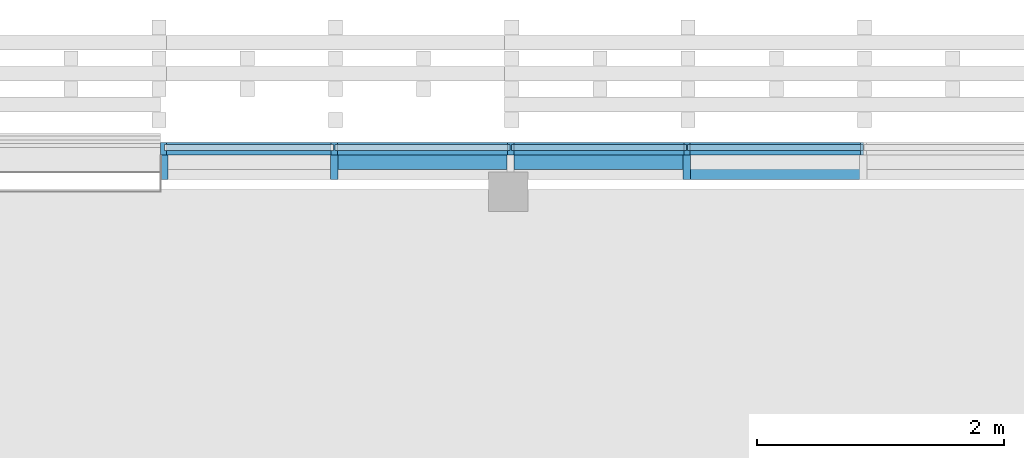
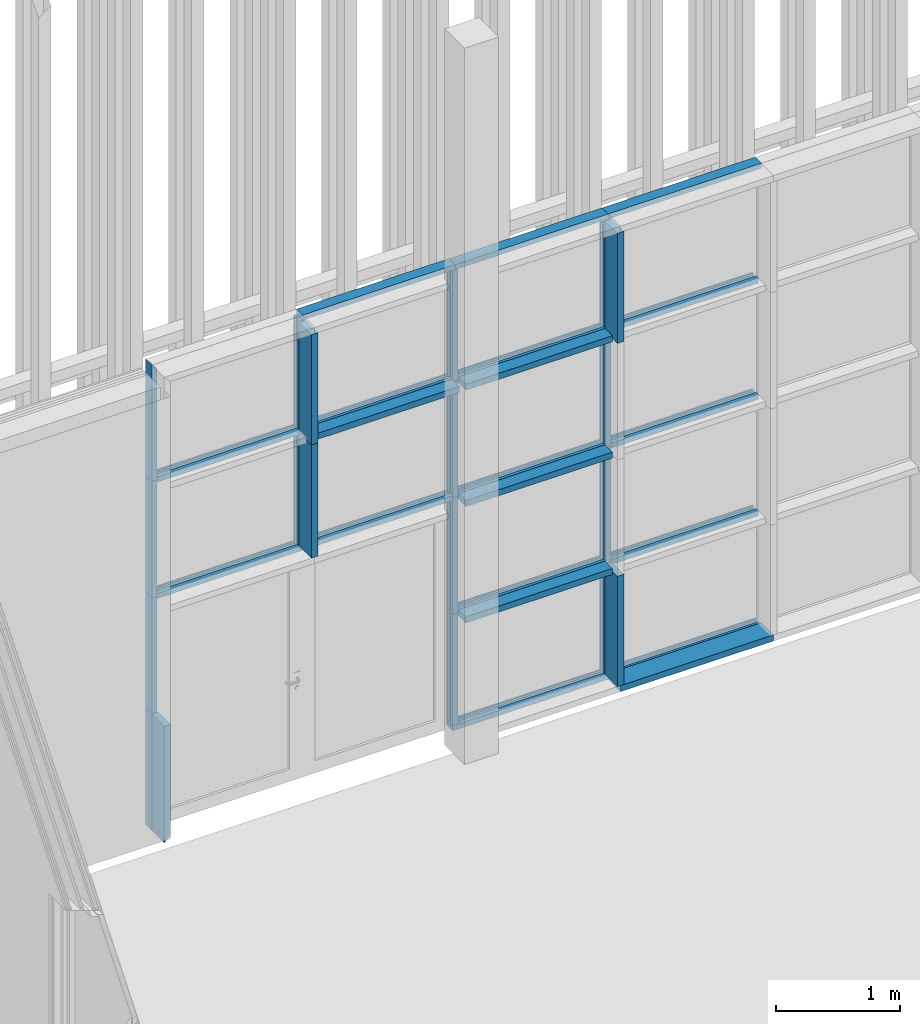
# One storey, part 31 of 260: 39 members, 2 elements without a shape of their own.
"""IFC2X3 building model written with IfcOpenShell, lengths in millimetres."""

import ifcopenshell
import ifcopenshell.guid

model = None  # the IFC model being written
_history = None  # IfcOwnerHistory: only IFC2X3 demands one
_inside = {}  # id of a spatial element -> (the spatial element, [elements in it])
_under = {}  # id of a project, library or spatial element -> (it, [spatial elements below it])
_declared = {}  # id of a project -> (the project, [libraries it declares])
_typed = {}  # id of a type object -> (the type object, [elements of that type])
_made_of = {}  # id of a material, layer set ... -> (it, [elements and type objects made of it])


def new_model(schema):
    """Start an empty IFC model of exactly this schema.

    Asked for "IFC4X3", IfcOpenShell would pick the latest addendum, in which some entities
    have other attributes; the version numbers below select the first issue.
    IFC2X3 requires an IfcOwnerHistory on every rooted entity: one is made here for all.
    """
    global model, _history
    if schema == "IFC4X3":
        model = ifcopenshell.file(schema_version=(4, 3, 0, 0))
    else:
        model = ifcopenshell.file(schema=schema)
    _inside.clear()
    _under.clear()
    _declared.clear()
    _typed.clear()
    _made_of.clear()
    _history = None
    if model.schema == "IFC2X3":
        org = make("IfcOrganization", Name="unknown")
        user = make(
            "IfcPersonAndOrganization",
            ThePerson=make("IfcPerson", FamilyName="unknown"),
            TheOrganization=org,
        )
        app = make(
            "IfcApplication",
            ApplicationDeveloper=org,
            Version="unknown",
            ApplicationFullName="unknown",
            ApplicationIdentifier="unknown",
        )
        _history = make(
            "IfcOwnerHistory",
            OwningUser=user,
            OwningApplication=app,
            ChangeAction="ADDED",
            CreationDate=0,
        )
    return model


def make(cls, **values):
    """One entity of the class cls with the attributes given. An attribute that is None is left unset."""
    return model.create_entity(
        cls, **{name: value for name, value in values.items() if value is not None}
    )


def entity(cls, *values):
    """Any entity or typed value of the class cls, its attributes in the order of the schema. None: left unset."""
    e = model.create_entity(cls)
    for i, value in enumerate(values):
        if value is not None:
            e[i] = value
    return e


def rooted(cls, **values):
    """An entity with a GlobalId (a new one), such as an element, a storey or a relation."""
    return make(cls, GlobalId=ifcopenshell.guid.new(), OwnerHistory=_history, **values)


def si_unit(unit_type, name, prefix=None):
    """IfcSIUnit, for example si_unit("LENGTHUNIT", "METRE", prefix="MILLI")."""
    return make("IfcSIUnit", UnitType=unit_type, Prefix=prefix, Name=name)


def converted_unit(unit_type, name, factor, base, dimensions=None, offset=None):
    """IfcConversionBasedUnit, such as the inch: factor (a typed value) times the base unit."""
    return make(
        "IfcConversionBasedUnit"
        if offset is None
        else "IfcConversionBasedUnitWithOffset",
        ConversionOffset=offset,
        Dimensions=None
        if dimensions is None
        else entity("IfcDimensionalExponents", *dimensions),
        UnitType=unit_type,
        Name=name,
        ConversionFactor=make(
            "IfcMeasureWithUnit", ValueComponent=factor, UnitComponent=base
        ),
    )


def derived_unit(unit_type, elements):
    """IfcDerivedUnit: a product of units, each with its exponent."""
    return make(
        "IfcDerivedUnit",
        Elements=[
            make("IfcDerivedUnitElement", Unit=unit, Exponent=power)
            for unit, power in elements
        ],
        UnitType=unit_type,
    )


def money_unit(currency):
    """IfcMonetaryUnit."""
    return make("IfcMonetaryUnit", Currency=currency)


def assignment(units):
    """IfcUnitAssignment: the units of a project."""
    return None if units is None else make("IfcUnitAssignment", Units=units)


def point(xyz):
    """IfcCartesianPoint."""
    return None if xyz is None else make("IfcCartesianPoint", Coordinates=xyz)


def direction(xyz):
    """IfcDirection."""
    return None if xyz is None else make("IfcDirection", DirectionRatios=xyz)


def frame(location, z_axis=None, x_axis=None):
    """IfcAxis2Placement3D, a coordinate frame: its origin and axes. An axis left out is left unset."""
    return make(
        "IfcAxis2Placement3D",
        Location=point(location),
        Axis=direction(z_axis),
        RefDirection=direction(x_axis),
    )


def origin_with_axes():
    """The frame at (0, 0, 0) with the z axis (0, 0, 1) and the x axis (1, 0, 0) written out."""
    return frame((0.0, 0.0, 0.0), z_axis=(0.0, 0.0, 1.0), x_axis=(1.0, 0.0, 0.0))


def place(relative_to, where):
    """IfcLocalPlacement: puts the frame where relative to a parent placement (None: the world)."""
    return make(
        "IfcLocalPlacement", PlacementRelTo=relative_to, RelativePlacement=where
    )


def context(
    kind, dimensions, precision=None, world=None, true_north=None, identifier=None
):
    """IfcGeometricRepresentationContext, for example the 3D "Model" context."""
    return make(
        "IfcGeometricRepresentationContext",
        ContextIdentifier=identifier,
        ContextType=kind,
        CoordinateSpaceDimension=dimensions,
        Precision=precision,
        WorldCoordinateSystem=world,
        TrueNorth=true_north,
    )


def subcontext(parent, identifier, kind, view, scale=None):
    """IfcGeometricRepresentationSubContext, for example "Body" below "Model"."""
    return make(
        "IfcGeometricRepresentationSubContext",
        ContextIdentifier=identifier,
        ContextType=kind,
        ParentContext=parent,
        TargetScale=scale,
        TargetView=view,
    )


def project(units=None, contexts=None):
    """IfcProject with its units and contexts."""
    return rooted(
        "IfcProject",
        Name="project",
        RepresentationContexts=contexts,
        UnitsInContext=assignment(units),
    )


def spatial(cls, under=None, at=None, **own):
    """A site, building, storey or space (cls), placed at a placement, below another one or the project."""
    s = rooted(cls, ObjectPlacement=at, **own)
    if under is not None:
        _under.setdefault(under.id(), (under, []))[1].append(s)
    return s


def faces_of(points, faces, orient=None, outer=None):
    """IfcFace entities. A face is a list of loops; a loop is a list of indices into points, from 0.

    orient and outer hold one flag for each loop. By default every Orientation is true, the
    first loop of a face is its IfcFaceOuterBound and the others are IfcFaceBound.
    """
    made = []
    for i, loops in enumerate(faces):
        bounds = []
        for j, loop in enumerate(loops):
            is_outer = j == 0 if outer is None else outer[i][j]
            bounds.append(
                make(
                    "IfcFaceOuterBound" if is_outer else "IfcFaceBound",
                    Bound=make("IfcPolyLoop", Polygon=[points[k] for k in loop]),
                    Orientation=True if orient is None else orient[i][j],
                )
            )
        made.append(make("IfcFace", Bounds=bounds))
    return made


def faceted_brep(points, faces, orient=None, outer=None, voids=None):
    """IfcFacetedBrep: a solid bounded by flat faces; with voids (closed shells), ...WithVoids."""
    shared = [point(p) for p in points]
    hull = make("IfcClosedShell", CfsFaces=faces_of(shared, faces, orient, outer))
    if voids is None:
        return make("IfcFacetedBrep", Outer=hull)
    return make(
        "IfcFacetedBrepWithVoids",
        Outer=hull,
        Voids=[
            make(cls, CfsFaces=faces_of(shared, fs, o, b)) for cls, fs, o, b in voids
        ],
    )


def shape(context_of_items, identifier, shape_type, items):
    """IfcShapeRepresentation: the items that make up one representation, for example the "Body"."""
    return make(
        "IfcShapeRepresentation",
        ContextOfItems=context_of_items,
        RepresentationIdentifier=identifier,
        RepresentationType=shape_type,
        Items=items,
    )


def source(mapping_origin, context_of_items, identifier, shape_type, items):
    """IfcRepresentationMap: a shape defined once, which mapped items show again and again."""
    return make(
        "IfcRepresentationMap",
        MappingOrigin=mapping_origin,
        MappedRepresentation=shape(context_of_items, identifier, shape_type, items),
    )


def transform(
    local_origin,
    x_axis=None,
    y_axis=None,
    z_axis=None,
    scale=None,
    scale2=None,
    scale3=None,
    uniform=True,
):
    """IfcCartesianTransformationOperator3D, or its non-uniform kind. x_axis, y_axis, z_axis: its Axis1, 2, 3."""
    if uniform:
        return make(
            "IfcCartesianTransformationOperator3D",
            Axis1=direction(x_axis),
            Axis2=direction(y_axis),
            LocalOrigin=point(local_origin),
            Scale=scale,
            Axis3=direction(z_axis),
        )
    return make(
        "IfcCartesianTransformationOperator3DnonUniform",
        Axis1=direction(x_axis),
        Axis2=direction(y_axis),
        LocalOrigin=point(local_origin),
        Scale=scale,
        Axis3=direction(z_axis),
        Scale2=scale2,
        Scale3=scale3,
    )


def mapped(mapping_source, mapping_target):
    """IfcMappedItem: shows the shape of a source again, moved by a transform."""
    return make(
        "IfcMappedItem", MappingSource=mapping_source, MappingTarget=mapping_target
    )


def material(Name=None, Category=None):
    """IfcMaterial."""
    return make("IfcMaterial", Name=Name, Category=Category)


def made_of(thing, what):
    """Note that an element or type object is made of a material, layer set ...; save() writes the relation."""
    if what is not None:
        _made_of.setdefault(what.id(), (what, []))[1].append(thing)
    return thing


def type_object(cls, material=None, **own):
    """A type object (cls), such as IfcWallType, which elements share."""
    return made_of(rooted(cls, **own), material)


def element(
    cls,
    number,
    at=None,
    inside=None,
    cuts=None,
    type_object=None,
    material=None,
    context=None,
    identifier="Body",
    shape_type=None,
    held_by="IfcProductDefinitionShape",
    body=None,
    shapes=None,
    **own,
):
    """One element of the class cls, such as IfcWall. Its Tag is "e" and its number.

    at: its placement. inside: the storey or other place that contains it. cuts: it is an
    opening in that element (IfcRelVoidsElement). A single representation is given by context,
    identifier, shape_type and body (its items); several are given by shapes. held_by: the class
    of the entity that holds the representations. save() writes the other relations.
    """
    e = rooted(cls, Tag="e%d" % number, ObjectPlacement=at, **own)
    if body is not None:
        shapes = [shape(context, identifier, shape_type, body)]
    if shapes is not None:
        e.Representation = make(held_by, Representations=shapes)
    if inside is not None:
        _inside.setdefault(inside.id(), (inside, []))[1].append(e)
    if cuts is not None:
        rooted(
            "IfcRelVoidsElement", RelatingBuildingElement=cuts, RelatedOpeningElement=e
        )
    if type_object is not None:
        _typed.setdefault(type_object.id(), (type_object, []))[1].append(e)
    return made_of(e, material)


def aggregate(whole, parts):
    """IfcRelAggregates: a whole, such as a stair, and the parts it consists of."""
    return rooted("IfcRelAggregates", RelatingObject=whole, RelatedObjects=parts)


def save(model, path):
    """Write the relations noted so far, then the file.

    IfcRelAggregates (storeys below a building ...), IfcRelContainedInSpatialStructure (elements
    in a storey), IfcRelDefinesByType, IfcRelAssociatesMaterial and IfcRelDeclares: one each for
    every whole, place, type object, material and project.
    """
    for whole, parts in _under.values():
        aggregate(whole, parts)
    for where, things in _inside.values():
        rooted(
            "IfcRelContainedInSpatialStructure",
            RelatedElements=things,
            RelatingStructure=where,
        )
    for kind, things in _typed.values():
        rooted("IfcRelDefinesByType", RelatedObjects=things, RelatingType=kind)
    for what, things in _made_of.values():
        rooted("IfcRelAssociatesMaterial", RelatedObjects=things, RelatingMaterial=what)
    for by, libraries in _declared.values():
        rooted("IfcRelDeclares", RelatingContext=by, RelatedDefinitions=libraries)
    model.write(path)


model = new_model("IFC2X3")

# Units and contexts
model_context = context("Model", 3, precision=0.01, world=origin_with_axes(), true_north=direction((0.0, 1.0)))
body_context = subcontext(model_context, "Body", "Model", "MODEL_VIEW")
ifc_project = project(units=[si_unit("LENGTHUNIT", "METRE", prefix="MILLI"), si_unit("AREAUNIT", "SQUARE_METRE"), si_unit("VOLUMEUNIT", "CUBIC_METRE"), converted_unit("PLANEANGLEUNIT", "DEGREE", entity("IfcPlaneAngleMeasure", 0.0174532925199), si_unit("PLANEANGLEUNIT", "RADIAN"), dimensions=[0, 0, 0, 0, 0, 0, 0]), money_unit("EUR"), converted_unit("TIMEUNIT", "Year", entity("IfcTimeMeasure", 31556926.0), si_unit("TIMEUNIT", "SECOND"), dimensions=[0, 0, 1, 0, 0, 0, 0]), si_unit("MASSUNIT", "GRAM", prefix="KILO"), si_unit("THERMODYNAMICTEMPERATUREUNIT", "DEGREE_CELSIUS"), si_unit("LUMINOUSINTENSITYUNIT", "LUMEN"), si_unit("ENERGYUNIT", "JOULE", prefix="MEGA"), derived_unit("THERMALCONDUCTANCEUNIT", [(si_unit("POWERUNIT", "WATT"), 1), (si_unit("LENGTHUNIT", "METRE"), -1), (si_unit("THERMODYNAMICTEMPERATUREUNIT", "KELVIN"), -1)]), derived_unit("SPECIFICHEATCAPACITYUNIT", [(si_unit("ENERGYUNIT", "JOULE"), 1), (si_unit("MASSUNIT", "GRAM", prefix="KILO"), -1), (si_unit("THERMODYNAMICTEMPERATUREUNIT", "KELVIN"), -1)]), derived_unit("MASSDENSITYUNIT", [(si_unit("MASSUNIT", "GRAM", prefix="KILO"), 1), (si_unit("VOLUMEUNIT", "CUBIC_METRE"), -1)])], contexts=[model_context])

# Site, building, storey
site_placement = place(None, origin_with_axes())
site = spatial("IfcSite", under=ifc_project, at=site_placement, Name="Kolde pst 67a", CompositionType="ELEMENT")
building_placement = place(site_placement, origin_with_axes())
building = spatial("IfcBuilding", under=site, at=building_placement, Name="Riigigümnaasium", CompositionType="ELEMENT")
storey_placement = place(building_placement, origin_with_axes())
storey = spatial("IfcBuildingStorey", under=building, at=storey_placement, Name="1. korrus", CompositionType="ELEMENT", Elevation=0.0)

# Curtain wall, members
curtain_wall_type = type_object("IfcCurtainWallType", Name="Curtain Wall Type", PredefinedType="NOTDEFINED")
curtain_wall_1_placement = place(storey_placement, frame((10366.0828546, 84639.9999608, 0.0), z_axis=(0.0, 0.0, 1.0), x_axis=(1.0, 0.0, 0.0)))
curtain_wall_1 = element("IfcCurtainWall", 1, at=curtain_wall_1_placement, inside=storey, type_object=curtain_wall_type, Name="KLAASFASSAAD")
ifc_material_1 = material(Name="_METALL - alumiinium")
member_type_1 = type_object("IfcMemberType", Name="Boundary Frame 50 x 100", PredefinedType="MEMBER")
shared_shape_1 = source(origin_with_axes(), body_context, "Body", "Brep", [
    faceted_brep([(-30.0, -24.0, 1430.0), (-50.0, -24.0, 1430.0), (-50.0, -60.0, 1430.0), (0.0, -60.0, 1430.0), (0.0, 40.0, 1430.0), (-50.0, 40.0, 1430.0), (-50.0, 24.0, 1430.0), (-30.0, 24.0, 1430.0), (-30.0, -24.0, 0.0), (-50.0, -24.0, 0.0), (-50.0, -60.0, 0.0), (0.0, -60.0, 0.0), (0.0, 40.0, 0.0), (-50.0, 40.0, 0.0), (-50.0, 24.0, 0.0), (-30.0, 24.0, 0.0)], [[[0, 1, 2, 3, 4, 5, 6, 7]], [[0, 8, 9, 1]], [[9, 10, 2, 1]], [[10, 11, 3, 2]], [[11, 12, 4, 3]], [[12, 13, 5, 4]], [[6, 5, 13, 14]], [[14, 15, 7, 6]], [[7, 15, 8, 0]], [[8, 15, 14, 13, 12, 11, 10, 9]]]),
])
member_1_placement = place(curtain_wall_1_placement, frame((715.0, 0.0, 0.0), z_axis=(1.0, 0.0, 0.0), x_axis=(0.0, 0.0, 1.0)))
member_1 = element("IfcMember", 2, at=member_1_placement, type_object=member_type_1, material=ifc_material_1, Name="RF RAAM SERV-077", ObjectType="MEMBER", context=body_context, shape_type="MappedRepresentation", body=[
    mapped(shared_shape_1, transform((0.0, 0.0, 0.0), x_axis=(-1.0, 0.0, 0.0), y_axis=(0.0, -1.0, 0.0), z_axis=(0.0, 0.0, 1.0))),
])
shared_shape_2 = source(origin_with_axes(), body_context, "Body", "Brep", [
    faceted_brep([(-30.0, -24.0, 1430.0), (-50.0, -24.0, 1430.0), (-50.0, -60.0, 1430.0), (0.0, -60.0, 1430.0), (0.0, 40.0, 1430.0), (-50.0, 40.0, 1430.0), (-50.0, 24.0, 1430.0), (-30.0, 24.0, 1430.0), (-30.0, -24.0, -25.0), (-50.0, -24.0, -25.0), (-50.0, -60.0, -25.0), (0.0, -60.0, -25.0), (0.0, 40.0, -25.0), (-50.0, 40.0, -25.0), (-50.0, 24.0, -25.0), (-30.0, 24.0, -25.0)], [[[0, 1, 2, 3, 4, 5, 6, 7]], [[0, 8, 9, 1]], [[9, 10, 2, 1]], [[10, 11, 3, 2]], [[11, 12, 4, 3]], [[12, 13, 5, 4]], [[6, 5, 13, 14]], [[14, 15, 7, 6]], [[7, 15, 8, 0]], [[8, 15, 14, 13, 12, 11, 10, 9]]]),
])
member_2_placement = place(curtain_wall_1_placement, frame((-715.0, 0.0, 0.0), z_axis=(1.0, 0.0, 0.0), x_axis=(0.0, 0.0, 1.0)))
member_2 = element("IfcMember", 3, at=member_2_placement, type_object=member_type_1, material=ifc_material_1, Name="RF RAAM SERV-076", ObjectType="MEMBER", context=body_context, shape_type="MappedRepresentation", body=[
    mapped(shared_shape_2, transform((0.0, 0.0, 0.0), x_axis=(-1.0, 0.0, 0.0), y_axis=(0.0, -1.0, 0.0), z_axis=(0.0, 0.0, 1.0))),
])
member_type_2 = type_object("IfcMemberType", Name="Transom Frame 50 x 100", PredefinedType="MEMBER")
shared_shape_3 = source(origin_with_axes(), body_context, "Body", "Brep", [
    faceted_brep([(5.0, -24.0, 1405.0), (5.0, 24.0, 1405.0), (25.0, 24.0, 1405.0), (25.0, 40.0, 1405.0), (-25.0, 40.0, 1405.0), (-25.0, 24.0, 1405.0), (-5.0, 24.0, 1405.0), (-5.0, -24.0, 1405.0), (-25.0, -24.0, 1405.0), (-25.0, -60.0, 1405.0), (25.0, -60.0, 1405.0), (25.0, -24.0, 1405.0), (5.0, -24.0, 25.0), (5.0, 24.0, 25.0), (25.0, 24.0, 25.0), (25.0, 40.0, 25.0), (-25.0, 40.0, 25.0), (-25.0, 24.0, 25.0), (-5.0, 24.0, 25.0), (-5.0, -24.0, 25.0), (-25.0, -24.0, 25.0), (-25.0, -60.0, 25.0), (25.0, -60.0, 25.0), (25.0, -24.0, 25.0)], [[[0, 1, 2, 3, 4, 5, 6, 7, 8, 9, 10, 11]], [[0, 12, 13, 1]], [[1, 13, 14, 2]], [[14, 15, 3, 2]], [[4, 3, 15, 16]], [[17, 5, 4, 16]], [[5, 17, 18, 6]], [[7, 6, 18, 19]], [[8, 7, 19, 20]], [[8, 20, 21, 9]], [[10, 9, 21, 22]], [[11, 10, 22, 23]], [[11, 23, 12, 0]], [[13, 12, 23, 22, 21, 20, 19, 18, 17, 16, 15, 14]]]),
])
member_3_placement = place(curtain_wall_1_placement, frame((-715.0, 0.0, 1150.0), z_axis=(1.0, 0.0, 0.0), x_axis=(0.0, 0.0, 1.0)))
member_3 = element("IfcMember", 4, at=member_3_placement, type_object=member_type_2, material=ifc_material_1, Name="RF RAAM HOR-798", ObjectType="MEMBER", context=body_context, shape_type="MappedRepresentation", body=[
    mapped(shared_shape_3, transform((0.0, 0.0, 0.0), x_axis=(-1.0, 0.0, 0.0), y_axis=(0.0, -1.0, 0.0), z_axis=(0.0, 0.0, 1.0))),
])
member_4_placement = place(curtain_wall_1_placement, frame((715.0, 0.0, 1150.0), z_axis=(1.0, 0.0, 0.0), x_axis=(0.0, 0.0, 1.0)))
member_4 = element("IfcMember", 5, at=member_4_placement, type_object=member_type_2, material=ifc_material_1, Name="RF RAAM HOR-798", ObjectType="MEMBER", context=body_context, shape_type="MappedRepresentation", body=[
    mapped(shared_shape_3, transform((0.0, 0.0, 0.0), x_axis=(-1.0, 0.0, 0.0), y_axis=(0.0, -1.0, 0.0), z_axis=(0.0, 0.0, 1.0))),
])
member_5_placement = place(curtain_wall_1_placement, frame((-2145.0, 0.0, 2300.0), z_axis=(1.0, 0.0, 0.0), x_axis=(0.0, 0.0, 1.0)))
member_5 = element("IfcMember", 6, at=member_5_placement, type_object=member_type_2, material=ifc_material_1, Name="RF RAAM HOR-798", ObjectType="MEMBER", context=body_context, shape_type="MappedRepresentation", body=[
    mapped(shared_shape_3, transform((0.0, 0.0, 0.0), x_axis=(-1.0, 0.0, 0.0), y_axis=(0.0, -1.0, 0.0), z_axis=(0.0, 0.0, 1.0))),
])
member_6_placement = place(curtain_wall_1_placement, frame((-715.0, 0.0, 2300.0), z_axis=(1.0, 0.0, 0.0), x_axis=(0.0, 0.0, 1.0)))
member_6 = element("IfcMember", 7, at=member_6_placement, type_object=member_type_2, material=ifc_material_1, Name="RF RAAM HOR-798", ObjectType="MEMBER", context=body_context, shape_type="MappedRepresentation", body=[
    mapped(shared_shape_3, transform((0.0, 0.0, 0.0), x_axis=(-1.0, 0.0, 0.0), y_axis=(0.0, -1.0, 0.0), z_axis=(0.0, 0.0, 1.0))),
])
member_7_placement = place(curtain_wall_1_placement, frame((715.0, 0.0, 2300.0), z_axis=(1.0, 0.0, 0.0), x_axis=(0.0, 0.0, 1.0)))
member_7 = element("IfcMember", 8, at=member_7_placement, type_object=member_type_2, material=ifc_material_1, Name="RF RAAM HOR-798", ObjectType="MEMBER", context=body_context, shape_type="MappedRepresentation", body=[
    mapped(shared_shape_3, transform((0.0, 0.0, 0.0), x_axis=(-1.0, 0.0, 0.0), y_axis=(0.0, -1.0, 0.0), z_axis=(0.0, 0.0, 1.0))),
])
member_8_placement = place(curtain_wall_1_placement, frame((-2145.0, 0.0, 3450.0), z_axis=(1.0, 0.0, 0.0), x_axis=(0.0, 0.0, 1.0)))
member_8 = element("IfcMember", 9, at=member_8_placement, type_object=member_type_2, material=ifc_material_1, Name="RF RAAM HOR-798", ObjectType="MEMBER", context=body_context, shape_type="MappedRepresentation", body=[
    mapped(shared_shape_3, transform((0.0, 0.0, 0.0), x_axis=(-1.0, 0.0, 0.0), y_axis=(0.0, -1.0, 0.0), z_axis=(0.0, 0.0, 1.0))),
])
member_9_placement = place(curtain_wall_1_placement, frame((-715.0, 0.0, 3450.0), z_axis=(1.0, 0.0, 0.0), x_axis=(0.0, 0.0, 1.0)))
member_9 = element("IfcMember", 10, at=member_9_placement, type_object=member_type_2, material=ifc_material_1, Name="RF RAAM HOR-798", ObjectType="MEMBER", context=body_context, shape_type="MappedRepresentation", body=[
    mapped(shared_shape_3, transform((0.0, 0.0, 0.0), x_axis=(-1.0, 0.0, 0.0), y_axis=(0.0, -1.0, 0.0), z_axis=(0.0, 0.0, 1.0))),
])
member_10_placement = place(curtain_wall_1_placement, frame((715.0, 0.0, 3450.0), z_axis=(1.0, 0.0, 0.0), x_axis=(0.0, 0.0, 1.0)))
member_10 = element("IfcMember", 11, at=member_10_placement, type_object=member_type_2, material=ifc_material_1, Name="RF RAAM HOR-798", ObjectType="MEMBER", context=body_context, shape_type="MappedRepresentation", body=[
    mapped(shared_shape_3, transform((0.0, 0.0, 0.0), x_axis=(-1.0, 0.0, 0.0), y_axis=(0.0, -1.0, 0.0), z_axis=(0.0, 0.0, 1.0))),
])
member_type_3 = type_object("IfcMemberType", Name="Mullion Frame 50 x 100", PredefinedType="MEMBER")
shared_shape_4 = source(origin_with_axes(), body_context, "Body", "Brep", [
    faceted_brep([(5.0, -24.0, 1150.0), (5.0, 24.0, 1150.0), (25.0, 24.0, 1150.0), (25.0, 40.0, 1150.0), (-25.0, 40.0, 1150.0), (-25.0, 24.0, 1150.0), (-5.0, 24.0, 1150.0), (-5.0, -24.0, 1150.0), (-25.0, -24.0, 1150.0), (-25.0, -60.0, 1150.0), (25.0, -60.0, 1150.0), (25.0, -24.0, 1150.0), (5.0, -24.0, 50.0), (5.0, 24.0, 50.0), (25.0, 24.0, 50.0), (25.0, 40.0, 50.0), (-25.0, 40.0, 50.0), (-25.0, 24.0, 50.0), (-5.0, 24.0, 50.0), (-5.0, -24.0, 50.0), (-25.0, -24.0, 50.0), (-25.0, -60.0, 50.0), (25.0, -60.0, 50.0), (25.0, -24.0, 50.0)], [[[0, 1, 2, 3, 4, 5, 6, 7, 8, 9, 10, 11]], [[0, 12, 13, 1]], [[1, 13, 14, 2]], [[14, 15, 3, 2]], [[4, 3, 15, 16]], [[17, 5, 4, 16]], [[5, 17, 18, 6]], [[7, 6, 18, 19]], [[8, 7, 19, 20]], [[8, 20, 21, 9]], [[10, 9, 21, 22]], [[11, 10, 22, 23]], [[11, 23, 12, 0]], [[13, 12, 23, 22, 21, 20, 19, 18, 17, 16, 15, 14]]]),
])
member_11_placement = place(curtain_wall_1_placement, frame((-715.0, 0.0, 0.0), z_axis=(0.0, 0.0, 1.0), x_axis=(-1.0, 0.0, 0.0)))
member_11 = element("IfcMember", 12, at=member_11_placement, type_object=member_type_3, material=ifc_material_1, Name="RF RAAM VERT-904", ObjectType="MEMBER", context=body_context, shape_type="MappedRepresentation", body=[
    mapped(shared_shape_4, transform((0.0, 0.0, 0.0), x_axis=(-1.0, 0.0, 0.0), y_axis=(0.0, -1.0, 0.0), z_axis=(0.0, 0.0, 1.0))),
])
member_12_placement = place(curtain_wall_1_placement, frame((715.0, 0.0, 0.0), z_axis=(0.0, 0.0, 1.0), x_axis=(-1.0, 0.0, 0.0)))
member_12 = element("IfcMember", 13, at=member_12_placement, type_object=member_type_3, material=ifc_material_1, Name="RF RAAM VERT-904", ObjectType="MEMBER", context=body_context, shape_type="MappedRepresentation", body=[
    mapped(shared_shape_4, transform((0.0, 0.0, 0.0), x_axis=(-1.0, 0.0, 0.0), y_axis=(0.0, -1.0, 0.0), z_axis=(0.0, 0.0, 1.0))),
])
shared_shape_5 = source(origin_with_axes(), body_context, "Body", "Brep", [
    faceted_brep([(5.0, -24.0, 1150.0), (5.0, 24.0, 1150.0), (25.0, 24.0, 1150.0), (25.0, 40.0, 1150.0), (-25.0, 40.0, 1150.0), (-25.0, 24.0, 1150.0), (-5.0, 24.0, 1150.0), (-5.0, -24.0, 1150.0), (-25.0, -24.0, 1150.0), (-25.0, -60.0, 1150.0), (25.0, -60.0, 1150.0), (25.0, -24.0, 1150.0), (5.0, -24.0, 0.0), (5.0, 24.0, 0.0), (25.0, 24.0, 0.0), (25.0, 40.0, 0.0), (-25.0, 40.0, 0.0), (-25.0, 24.0, 0.0), (-5.0, 24.0, 0.0), (-5.0, -24.0, 0.0), (-25.0, -24.0, 0.0), (-25.0, -60.0, 0.0), (25.0, -60.0, 0.0), (25.0, -24.0, 0.0)], [[[0, 1, 2, 3, 4, 5, 6, 7, 8, 9, 10, 11]], [[0, 12, 13, 1]], [[1, 13, 14, 2]], [[14, 15, 3, 2]], [[3, 15, 16, 4]], [[17, 5, 4, 16]], [[5, 17, 18, 6]], [[7, 6, 18, 19]], [[8, 7, 19, 20]], [[8, 20, 21, 9]], [[9, 21, 22, 10]], [[11, 10, 22, 23]], [[11, 23, 12, 0]], [[13, 12, 23, 22, 21, 20, 19, 18, 17, 16, 15, 14]]]),
])
member_13_placement = place(curtain_wall_1_placement, frame((-715.0, 0.0, 1150.0), z_axis=(0.0, 0.0, 1.0), x_axis=(-1.0, 0.0, 0.0)))
member_13 = element("IfcMember", 14, at=member_13_placement, type_object=member_type_3, material=ifc_material_1, Name="RF RAAM VERT-904", ObjectType="MEMBER", context=body_context, shape_type="MappedRepresentation", body=[
    mapped(shared_shape_5, transform((0.0, 0.0, 0.0), x_axis=(-1.0, 0.0, 0.0), y_axis=(0.0, -1.0, 0.0), z_axis=(0.0, 0.0, 1.0))),
])
member_14_placement = place(curtain_wall_1_placement, frame((715.0, 0.0, 1150.0), z_axis=(0.0, 0.0, 1.0), x_axis=(-1.0, 0.0, 0.0)))
member_14 = element("IfcMember", 15, at=member_14_placement, type_object=member_type_3, material=ifc_material_1, Name="RF RAAM VERT-904", ObjectType="MEMBER", context=body_context, shape_type="MappedRepresentation", body=[
    mapped(shared_shape_5, transform((0.0, 0.0, 0.0), x_axis=(-1.0, 0.0, 0.0), y_axis=(0.0, -1.0, 0.0), z_axis=(0.0, 0.0, 1.0))),
])
member_15_placement = place(curtain_wall_1_placement, frame((-715.0, 0.0, 2300.0), z_axis=(0.0, 0.0, 1.0), x_axis=(-1.0, 0.0, 0.0)))
member_15 = element("IfcMember", 16, at=member_15_placement, type_object=member_type_3, material=ifc_material_1, Name="RF RAAM VERT-904", ObjectType="MEMBER", context=body_context, shape_type="MappedRepresentation", body=[
    mapped(shared_shape_5, transform((0.0, 0.0, 0.0), x_axis=(-1.0, 0.0, 0.0), y_axis=(0.0, -1.0, 0.0), z_axis=(0.0, 0.0, 1.0))),
])
member_16_placement = place(curtain_wall_1_placement, frame((715.0, 0.0, 2300.0), z_axis=(0.0, 0.0, 1.0), x_axis=(-1.0, 0.0, 0.0)))
member_16 = element("IfcMember", 17, at=member_16_placement, type_object=member_type_3, material=ifc_material_1, Name="RF RAAM VERT-904", ObjectType="MEMBER", context=body_context, shape_type="MappedRepresentation", body=[
    mapped(shared_shape_5, transform((0.0, 0.0, 0.0), x_axis=(-1.0, 0.0, 0.0), y_axis=(0.0, -1.0, 0.0), z_axis=(0.0, 0.0, 1.0))),
])
shared_shape_6 = source(origin_with_axes(), body_context, "Body", "Brep", [
    faceted_brep([(5.0, -24.0, 1383.58258302), (5.0, 24.0, 1383.58258302), (25.0, 24.0, 1383.58258302), (25.0, 40.0, 1383.58258302), (-25.0, 40.0, 1383.58258302), (-25.0, 24.0, 1383.58258302), (-5.0, 24.0, 1383.58258302), (-5.0, -24.0, 1383.58258302), (-25.0, -24.0, 1383.58258302), (-25.0, -60.0, 1383.58258302), (25.0, -60.0, 1383.58258302), (25.0, -24.0, 1383.58258302), (5.0, -24.0, 50.0), (5.0, 24.0, 50.0), (25.0, 24.0, 50.0), (25.0, 40.0, 50.0), (-25.0, 40.0, 50.0), (-25.0, 24.0, 50.0), (-5.0, 24.0, 50.0), (-5.0, -24.0, 50.0), (-25.0, -24.0, 50.0), (-25.0, -60.0, 50.0), (25.0, -60.0, 50.0), (25.0, -24.0, 50.0)], [[[0, 1, 2, 3, 4, 5, 6, 7, 8, 9, 10, 11]], [[0, 12, 13, 1]], [[1, 13, 14, 2]], [[14, 15, 3, 2]], [[4, 3, 15, 16]], [[17, 5, 4, 16]], [[5, 17, 18, 6]], [[7, 6, 18, 19]], [[8, 7, 19, 20]], [[8, 20, 21, 9]], [[10, 9, 21, 22]], [[11, 10, 22, 23]], [[11, 23, 12, 0]], [[13, 12, 23, 22, 21, 20, 19, 18, 17, 16, 15, 14]]]),
])
member_17_placement = place(curtain_wall_1_placement, frame((-3553.58258302, 0.0, 2300.0), z_axis=(1.0, 0.0, 0.0), x_axis=(0.0, 0.0, 1.0)))
member_17 = element("IfcMember", 18, at=member_17_placement, type_object=member_type_2, material=ifc_material_1, Name="RF RAAM HOR-798", ObjectType="MEMBER", context=body_context, shape_type="MappedRepresentation", body=[
    mapped(shared_shape_6, transform((0.0, 0.0, 0.0), x_axis=(-1.0, 0.0, 0.0), y_axis=(0.0, -1.0, 0.0), z_axis=(0.0, 0.0, 1.0))),
])
member_18_placement = place(curtain_wall_1_placement, frame((-3553.58258302, 0.0, 3450.0), z_axis=(1.0, 0.0, 0.0), x_axis=(0.0, 0.0, 1.0)))
member_18 = element("IfcMember", 19, at=member_18_placement, type_object=member_type_2, material=ifc_material_1, Name="RF RAAM HOR-798", ObjectType="MEMBER", context=body_context, shape_type="MappedRepresentation", body=[
    mapped(shared_shape_6, transform((0.0, 0.0, 0.0), x_axis=(-1.0, 0.0, 0.0), y_axis=(0.0, -1.0, 0.0), z_axis=(0.0, 0.0, 1.0))),
])
shared_shape_7 = source(origin_with_axes(), body_context, "Body", "Brep", [
    faceted_brep([(5.0, -24.0, 1150.0), (5.0, 24.0, 1150.0), (25.0, 24.0, 1150.0), (25.0, 40.0, 1150.0), (-25.0, 40.0, 1150.0), (-25.0, 24.0, 1150.0), (-5.0, 24.0, 1150.0), (-5.0, -24.0, 1150.0), (-25.0, -24.0, 1150.0), (-25.0, -60.0, 1150.0), (25.0, -60.0, 1150.0), (25.0, -24.0, 1150.0), (5.0, -24.0, -25.0), (5.0, 24.0, -25.0), (25.0, 24.0, -25.0), (25.0, 40.0, -25.0), (-25.0, 40.0, -25.0), (-25.0, 24.0, -25.0), (-5.0, 24.0, -25.0), (-5.0, -24.0, -25.0), (-25.0, -24.0, -25.0), (-25.0, -60.0, -25.0), (25.0, -60.0, -25.0), (25.0, -24.0, -25.0)], [[[0, 1, 2, 3, 4, 5, 6, 7, 8, 9, 10, 11]], [[0, 12, 13, 1]], [[1, 13, 14, 2]], [[14, 15, 3, 2]], [[3, 15, 16, 4]], [[17, 5, 4, 16]], [[5, 17, 18, 6]], [[7, 6, 18, 19]], [[8, 7, 19, 20]], [[8, 20, 21, 9]], [[9, 21, 22, 10]], [[11, 10, 22, 23]], [[11, 23, 12, 0]], [[13, 12, 23, 22, 21, 20, 19, 18, 17, 16, 15, 14]]]),
])
member_19_placement = place(curtain_wall_1_placement, frame((-2145.0, 0.0, 2300.0), z_axis=(0.0, 0.0, 1.0), x_axis=(-1.0, 0.0, 0.0)))
member_19 = element("IfcMember", 20, at=member_19_placement, type_object=member_type_3, material=ifc_material_1, Name="RF RAAM VERT-904", ObjectType="MEMBER", context=body_context, shape_type="MappedRepresentation", body=[
    mapped(shared_shape_7, transform((0.0, 0.0, 0.0), x_axis=(-1.0, 0.0, 0.0), y_axis=(0.0, -1.0, 0.0), z_axis=(0.0, 0.0, 1.0))),
])
shared_shape_8 = source(origin_with_axes(), body_context, "Body", "Brep", [
    faceted_brep([(-30.0, -24.0, 1150.0), (-50.0, -24.0, 1150.0), (-50.0, -60.0, 1150.0), (0.0, -60.0, 1150.0), (0.0, 40.0, 1150.0), (-50.0, 40.0, 1150.0), (-50.0, 24.0, 1150.0), (-30.0, 24.0, 1150.0), (-30.0, -24.0, 0.0), (-50.0, -24.0, 0.0), (-50.0, -60.0, 0.0), (0.0, -60.0, 0.0), (0.0, 40.0, 0.0), (-50.0, 40.0, 0.0), (-50.0, 24.0, 0.0), (-30.0, 24.0, 0.0)], [[[0, 1, 2, 3, 4, 5, 6, 7]], [[0, 8, 9, 1]], [[9, 10, 2, 1]], [[10, 11, 3, 2]], [[11, 12, 4, 3]], [[12, 13, 5, 4]], [[6, 5, 13, 14]], [[14, 15, 7, 6]], [[7, 15, 8, 0]], [[8, 15, 14, 13, 12, 11, 10, 9]]]),
])
member_20_placement = place(curtain_wall_1_placement, frame((-3553.58258302, 0.0, 1150.0), z_axis=(0.0, 0.0, -1.0), x_axis=(1.0, 0.0, 0.0)))
member_20 = element("IfcMember", 21, at=member_20_placement, type_object=member_type_1, material=ifc_material_1, Name="RF RAAM SERV-123", ObjectType="MEMBER", context=body_context, shape_type="MappedRepresentation", body=[
    mapped(shared_shape_8, transform((0.0, 0.0, 0.0), x_axis=(-1.0, 0.0, 0.0), y_axis=(0.0, -1.0, 0.0), z_axis=(0.0, 0.0, 1.0))),
])
member_21_placement = place(curtain_wall_1_placement, frame((-3553.58258302, 0.0, 2300.0), z_axis=(0.0, 0.0, -1.0), x_axis=(1.0, 0.0, 0.0)))
member_21 = element("IfcMember", 22, at=member_21_placement, type_object=member_type_1, material=ifc_material_1, Name="RF RAAM SERV-122", ObjectType="MEMBER", context=body_context, shape_type="MappedRepresentation", body=[
    mapped(shared_shape_8, transform((0.0, 0.0, 0.0), x_axis=(-1.0, 0.0, 0.0), y_axis=(0.0, -1.0, 0.0), z_axis=(0.0, 0.0, 1.0))),
])
member_22_placement = place(curtain_wall_1_placement, frame((-3553.58258302, 0.0, 3450.0), z_axis=(0.0, 0.0, -1.0), x_axis=(1.0, 0.0, 0.0)))
member_22 = element("IfcMember", 23, at=member_22_placement, type_object=member_type_1, material=ifc_material_1, Name="RF RAAM SERV-121", ObjectType="MEMBER", context=body_context, shape_type="MappedRepresentation", body=[
    mapped(shared_shape_8, transform((0.0, 0.0, 0.0), x_axis=(-1.0, 0.0, 0.0), y_axis=(0.0, -1.0, 0.0), z_axis=(0.0, 0.0, 1.0))),
])
shared_shape_9 = source(origin_with_axes(), body_context, "Body", "Brep", [
    faceted_brep([(-30.0, -24.0, 1150.0), (-50.0, -24.0, 1150.0), (-50.0, -60.0, 1150.0), (0.0, -60.0, 1150.0), (0.0, 40.0, 1150.0), (-50.0, 40.0, 1150.0), (-50.0, 24.0, 1150.0), (-30.0, 24.0, 1150.0), (-30.0, -24.0, 30.0), (-50.0, -24.0, 50.0), (-50.0, -60.0, 50.0), (0.0, -60.0, 0.0), (0.0, 40.0, 0.0), (-50.0, 40.0, 50.0), (-50.0, 24.0, 50.0), (-30.0, 24.0, 30.0)], [[[0, 1, 2, 3, 4, 5, 6, 7]], [[0, 8, 9, 1]], [[9, 10, 2, 1]], [[2, 10, 11, 3]], [[3, 11, 12, 4]], [[4, 12, 13, 5]], [[6, 5, 13, 14]], [[14, 15, 7, 6]], [[7, 15, 8, 0]], [[8, 15, 14, 13, 12, 11, 10, 9]]]),
])
member_23_placement = place(curtain_wall_1_placement, frame((-3553.58258302, 0.0, 4600.0), z_axis=(0.0, 0.0, -1.0), x_axis=(1.0, 0.0, 0.0)))
member_23 = element("IfcMember", 24, at=member_23_placement, type_object=member_type_1, material=ifc_material_1, Name="RF RAAM SERV-120", ObjectType="MEMBER", context=body_context, shape_type="MappedRepresentation", body=[
    mapped(shared_shape_9, transform((0.0, 0.0, 0.0), x_axis=(-1.0, 0.0, 0.0), y_axis=(0.0, -1.0, 0.0), z_axis=(0.0, 0.0, 1.0))),
])
shared_shape_10 = source(origin_with_axes(), body_context, "Body", "Brep", [
    faceted_brep([(5.0, -24.0, 1100.0), (5.0, 24.0, 1100.0), (25.0, 24.0, 1100.0), (25.0, 40.0, 1100.0), (-25.0, 40.0, 1100.0), (-25.0, 24.0, 1100.0), (-5.0, 24.0, 1100.0), (-5.0, -24.0, 1100.0), (-25.0, -24.0, 1100.0), (-25.0, -60.0, 1100.0), (25.0, -60.0, 1100.0), (25.0, -24.0, 1100.0), (5.0, -24.0, 0.0), (5.0, 24.0, 0.0), (25.0, 24.0, 0.0), (25.0, 40.0, 0.0), (-25.0, 40.0, 0.0), (-25.0, 24.0, 0.0), (-5.0, 24.0, 0.0), (-5.0, -24.0, 0.0), (-25.0, -24.0, 0.0), (-25.0, -60.0, 0.0), (25.0, -60.0, 0.0), (25.0, -24.0, 0.0)], [[[0, 1, 2, 3, 4, 5, 6, 7, 8, 9, 10, 11]], [[0, 12, 13, 1]], [[1, 13, 14, 2]], [[14, 15, 3, 2]], [[3, 15, 16, 4]], [[17, 5, 4, 16]], [[5, 17, 18, 6]], [[7, 6, 18, 19]], [[8, 7, 19, 20]], [[8, 20, 21, 9]], [[9, 21, 22, 10]], [[11, 10, 22, 23]], [[11, 23, 12, 0]], [[13, 12, 23, 22, 21, 20, 19, 18, 17, 16, 15, 14]]]),
])
member_24_placement = place(curtain_wall_1_placement, frame((-2145.0, 0.0, 3450.0), z_axis=(0.0, 0.0, 1.0), x_axis=(-1.0, 0.0, 0.0)))
member_24 = element("IfcMember", 25, at=member_24_placement, type_object=member_type_3, material=ifc_material_1, Name="RF RAAM VERT-223", ObjectType="MEMBER", context=body_context, shape_type="MappedRepresentation", body=[
    mapped(shared_shape_10, transform((0.0, 0.0, 0.0), x_axis=(-1.0, 0.0, 0.0), y_axis=(0.0, -1.0, 0.0), z_axis=(0.0, 0.0, 1.0))),
])
member_25_placement = place(curtain_wall_1_placement, frame((-715.0, 0.0, 3450.0), z_axis=(0.0, 0.0, 1.0), x_axis=(-1.0, 0.0, 0.0)))
member_25 = element("IfcMember", 26, at=member_25_placement, type_object=member_type_3, material=ifc_material_1, Name="RF RAAM VERT-224", ObjectType="MEMBER", context=body_context, shape_type="MappedRepresentation", body=[
    mapped(shared_shape_10, transform((0.0, 0.0, 0.0), x_axis=(-1.0, 0.0, 0.0), y_axis=(0.0, -1.0, 0.0), z_axis=(0.0, 0.0, 1.0))),
])
member_26_placement = place(curtain_wall_1_placement, frame((715.0, 0.0, 3450.0), z_axis=(0.0, 0.0, 1.0), x_axis=(-1.0, 0.0, 0.0)))
member_26 = element("IfcMember", 27, at=member_26_placement, type_object=member_type_3, material=ifc_material_1, Name="RF RAAM VERT-225", ObjectType="MEMBER", context=body_context, shape_type="MappedRepresentation", body=[
    mapped(shared_shape_10, transform((0.0, 0.0, 0.0), x_axis=(-1.0, 0.0, 0.0), y_axis=(0.0, -1.0, 0.0), z_axis=(0.0, 0.0, 1.0))),
])
shared_shape_11 = source(origin_with_axes(), body_context, "Body", "Brep", [
    faceted_brep([(30.0, -24.0, 1430.0), (30.0, 24.0, 1430.0), (50.0, 24.0, 1430.0), (50.0, 40.0, 1430.0), (0.0, 40.0, 1430.0), (0.0, -60.0, 1430.0), (50.0, -60.0, 1430.0), (50.0, -24.0, 1430.0), (30.0, -24.0, 0.0), (30.0, 24.0, 0.0), (50.0, 24.0, 0.0), (50.0, 40.0, 0.0), (0.0, 40.0, 0.0), (0.0, -60.0, 0.0), (50.0, -60.0, 0.0), (50.0, -24.0, 0.0)], [[[0, 1, 2, 3, 4, 5, 6, 7]], [[1, 0, 8, 9]], [[10, 2, 1, 9]], [[2, 10, 11, 3]], [[12, 4, 3, 11]], [[13, 5, 4, 12]], [[14, 6, 5, 13]], [[15, 7, 6, 14]], [[0, 7, 15, 8]], [[8, 15, 14, 13, 12, 11, 10, 9]]]),
])
member_27_placement = place(curtain_wall_1_placement, frame((-2145.0, 0.0, 4600.0), z_axis=(1.0, 0.0, 0.0), x_axis=(0.0, 0.0, 1.0)))
member_27 = element("IfcMember", 28, at=member_27_placement, type_object=member_type_1, material=ifc_material_1, Name="RF RAAM SERV-118", ObjectType="MEMBER", context=body_context, shape_type="MappedRepresentation", body=[
    mapped(shared_shape_11, transform((0.0, 0.0, 0.0), x_axis=(-1.0, 0.0, 0.0), y_axis=(0.0, -1.0, 0.0), z_axis=(0.0, 0.0, 1.0))),
])
member_28_placement = place(curtain_wall_1_placement, frame((-715.0, 0.0, 4600.0), z_axis=(1.0, 0.0, 0.0), x_axis=(0.0, 0.0, 1.0)))
member_28 = element("IfcMember", 29, at=member_28_placement, type_object=member_type_1, material=ifc_material_1, Name="RF RAAM SERV-117", ObjectType="MEMBER", context=body_context, shape_type="MappedRepresentation", body=[
    mapped(shared_shape_11, transform((0.0, 0.0, 0.0), x_axis=(-1.0, 0.0, 0.0), y_axis=(0.0, -1.0, 0.0), z_axis=(0.0, 0.0, 1.0))),
])
member_29_placement = place(curtain_wall_1_placement, frame((715.0, 0.0, 4600.0), z_axis=(1.0, 0.0, 0.0), x_axis=(0.0, 0.0, 1.0)))
member_29 = element("IfcMember", 30, at=member_29_placement, type_object=member_type_1, material=ifc_material_1, Name="RF RAAM SERV-116", ObjectType="MEMBER", context=body_context, shape_type="MappedRepresentation", body=[
    mapped(shared_shape_11, transform((0.0, 0.0, 0.0), x_axis=(-1.0, 0.0, 0.0), y_axis=(0.0, -1.0, 0.0), z_axis=(0.0, 0.0, 1.0))),
])
aggregate(curtain_wall_1, [member_2, member_11, member_1, member_12, member_3, member_13, member_4, member_14, member_17, member_5, member_19, member_6, member_15, member_7, member_16, member_18, member_8, member_9, member_10, member_20, member_21, member_22, member_23, member_24, member_25, member_26, member_27, member_28, member_29])

curtain_wall_2_placement = place(storey_placement, frame((7516.12873899, 84579.9999608, 0.0), z_axis=(0.0, 0.0, 1.0), x_axis=(1.0, 0.0, 0.0)))
curtain_wall_2 = element("IfcCurtainWall", 31, at=curtain_wall_2_placement, inside=storey, type_object=curtain_wall_type, Name="Klaasfassaadi puitkarkass")
ifc_material_2 = material(Name="_KANDETARIND - liimpuit vastavalt EK osale")
member_type_4 = type_object("IfcMemberType", Name="Mullion Frame 60 x 200", PredefinedType="MEMBER")
shared_shape_12 = source(origin_with_axes(), body_context, "Body", "Brep", [
    faceted_brep([(-30.0, -200.0, 0.0), (-30.0, -200.0, 1090.0), (-30.0, 0.0, 1090.0), (-30.0, 0.0, 0.0), (30.0, -200.0, 0.0), (30.0, -200.0, 1090.0), (30.0, 0.0, 1090.0), (30.0, 0.0, 0.0)], [[[0, 1, 2, 3]], [[4, 5, 1, 0]], [[1, 5, 6, 2]], [[3, 2, 6, 7]], [[0, 3, 7, 4]], [[7, 6, 5, 4]]]),
])
member_30_placement = place(curtain_wall_2_placement, frame((3563.62846741, 0.0, 3450.0), z_axis=(0.0, 0.0, 1.0), x_axis=(-1.0, 0.0, 0.0)))
member_30 = element("IfcMember", 32, at=member_30_placement, type_object=member_type_4, material=ifc_material_2, Name="RF RAAM VERT-673", ObjectType="MEMBER", context=body_context, shape_type="MappedRepresentation", body=[
    mapped(shared_shape_12, transform((0.0, 0.0, 0.0), x_axis=(-1.0, 0.0, 0.0), y_axis=(0.0, -1.0, 0.0), z_axis=(0.0, 0.0, 1.0))),
])
member_31_placement = place(curtain_wall_2_placement, frame((703.628467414, 0.0, 3450.0), z_axis=(0.0, 0.0, 1.0), x_axis=(-1.0, 0.0, 0.0)))
member_31 = element("IfcMember", 33, at=member_31_placement, type_object=member_type_4, material=ifc_material_2, Name="RF RAAM VERT-671", ObjectType="MEMBER", context=body_context, shape_type="MappedRepresentation", body=[
    mapped(shared_shape_12, transform((0.0, 0.0, 0.0), x_axis=(-1.0, 0.0, 0.0), y_axis=(0.0, -1.0, 0.0), z_axis=(0.0, 0.0, 1.0))),
])
member_type_5 = type_object("IfcMemberType", Name="Boundary Frame 60 x 200", PredefinedType="MEMBER")
shared_shape_13 = source(origin_with_axes(), body_context, "Body", "Brep", [
    faceted_brep([(-60.0, -200.0, 0.0), (-60.0, -200.0, 1430.0), (-60.0, 0.0, 1430.0), (-60.0, 0.0, 0.0), (0.0, -200.0, 0.0), (0.0, -200.0, 1430.0), (0.0, 0.0, 1430.0), (0.0, 0.0, 0.0)], [[[0, 1, 2, 3]], [[4, 5, 1, 0]], [[1, 5, 6, 2]], [[3, 2, 6, 7]], [[0, 3, 7, 4]], [[7, 6, 5, 4]]]),
])
member_32_placement = place(curtain_wall_2_placement, frame((3563.62846741, 0.0, 0.0), z_axis=(1.0, 0.0, 0.0), x_axis=(0.0, 0.0, 1.0)))
member_32 = element("IfcMember", 34, at=member_32_placement, type_object=member_type_5, material=ifc_material_2, Name="RF RAAM SERV-413", ObjectType="MEMBER", context=body_context, shape_type="MappedRepresentation", body=[
    mapped(shared_shape_13, transform((0.0, 0.0, 0.0), x_axis=(-1.0, 0.0, 0.0), y_axis=(0.0, -1.0, 0.0), z_axis=(0.0, 0.0, 1.0))),
])
shared_shape_14 = source(origin_with_axes(), body_context, "Body", "Brep", [
    faceted_brep([(-30.0, 0.0, 60.0), (-30.0, -200.0, 60.0), (-30.0, -200.0, 1150.0), (-30.0, 0.0, 1150.0), (30.0, 0.0, 60.0), (30.0, -200.0, 60.0), (30.0, -200.0, 1150.0), (30.0, 0.0, 1150.0)], [[[0, 1, 2, 3]], [[1, 0, 4, 5]], [[1, 5, 6, 2]], [[2, 6, 7, 3]], [[4, 0, 3, 7]], [[5, 4, 7, 6]]]),
])
member_33_placement = place(curtain_wall_2_placement, frame((3563.62846741, 0.0, 0.0), z_axis=(0.0, 0.0, 1.0), x_axis=(-1.0, 0.0, 0.0)))
member_33 = element("IfcMember", 35, at=member_33_placement, type_object=member_type_4, material=ifc_material_2, Name="RF RAAM VERT-458", ObjectType="MEMBER", context=body_context, shape_type="MappedRepresentation", body=[
    mapped(shared_shape_14, transform((0.0, 0.0, 0.0), x_axis=(-1.0, 0.0, 0.0), y_axis=(0.0, -1.0, 0.0), z_axis=(0.0, 0.0, 1.0))),
])
member_type_6 = type_object("IfcMemberType", Name="Transom Frame 60 x 120", PredefinedType="MEMBER")
shared_shape_15 = source(origin_with_axes(), body_context, "Body", "Brep", [
    faceted_brep([(-30.0, 0.0, 30.0), (-30.0, -120.0, 30.0), (-30.0, -120.0, 1400.0), (-30.0, 0.0, 1400.0), (30.0, 0.0, 30.0), (30.0, -120.0, 30.0), (30.0, -120.0, 1400.0), (30.0, 0.0, 1400.0)], [[[0, 1, 2, 3]], [[1, 0, 4, 5]], [[1, 5, 6, 2]], [[2, 6, 7, 3]], [[4, 0, 3, 7]], [[5, 4, 7, 6]]]),
])
member_34_placement = place(curtain_wall_2_placement, frame((2133.62846741, 0.0, 1150.0), z_axis=(1.0, 0.0, 0.0), x_axis=(0.0, 0.0, 1.0)))
member_34 = element("IfcMember", 36, at=member_34_placement, type_object=member_type_6, material=ifc_material_2, Name="RF RAAM HOR-452", ObjectType="MEMBER", context=body_context, shape_type="MappedRepresentation", body=[
    mapped(shared_shape_15, transform((0.0, 0.0, 0.0), x_axis=(-1.0, 0.0, 0.0), y_axis=(0.0, -1.0, 0.0), z_axis=(0.0, 0.0, 1.0))),
])
member_35_placement = place(curtain_wall_2_placement, frame((2133.62846741, 0.0, 2300.0), z_axis=(1.0, 0.0, 0.0), x_axis=(0.0, 0.0, 1.0)))
member_35 = element("IfcMember", 37, at=member_35_placement, type_object=member_type_6, material=ifc_material_2, Name="RF RAAM HOR-475", ObjectType="MEMBER", context=body_context, shape_type="MappedRepresentation", body=[
    mapped(shared_shape_15, transform((0.0, 0.0, 0.0), x_axis=(-1.0, 0.0, 0.0), y_axis=(0.0, -1.0, 0.0), z_axis=(0.0, 0.0, 1.0))),
])
member_36_placement = place(curtain_wall_2_placement, frame((703.628467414, 0.0, 3450.0), z_axis=(1.0, 0.0, 0.0), x_axis=(0.0, 0.0, 1.0)))
member_36 = element("IfcMember", 38, at=member_36_placement, type_object=member_type_6, material=ifc_material_2, Name="RF RAAM HOR-497", ObjectType="MEMBER", context=body_context, shape_type="MappedRepresentation", body=[
    mapped(shared_shape_15, transform((0.0, 0.0, 0.0), x_axis=(-1.0, 0.0, 0.0), y_axis=(0.0, -1.0, 0.0), z_axis=(0.0, 0.0, 1.0))),
])
member_37_placement = place(curtain_wall_2_placement, frame((2133.62846741, 0.0, 3450.0), z_axis=(1.0, 0.0, 0.0), x_axis=(0.0, 0.0, 1.0)))
member_37 = element("IfcMember", 39, at=member_37_placement, type_object=member_type_6, material=ifc_material_2, Name="RF RAAM HOR-498", ObjectType="MEMBER", context=body_context, shape_type="MappedRepresentation", body=[
    mapped(shared_shape_15, transform((0.0, 0.0, 0.0), x_axis=(-1.0, 0.0, 0.0), y_axis=(0.0, -1.0, 0.0), z_axis=(0.0, 0.0, 1.0))),
])
shared_shape_16 = source(origin_with_axes(), body_context, "Body", "Brep", [
    faceted_brep([(-30.0, 0.0, 30.0), (-30.0, -200.0, 30.0), (-30.0, -200.0, 1150.0), (-30.0, 0.0, 1150.0), (30.0, 0.0, 30.0), (30.0, -200.0, 30.0), (30.0, -200.0, 1150.0), (30.0, 0.0, 1150.0)], [[[0, 1, 2, 3]], [[1, 0, 4, 5]], [[1, 5, 6, 2]], [[2, 6, 7, 3]], [[4, 0, 3, 7]], [[5, 4, 7, 6]]]),
])
member_38_placement = place(curtain_wall_2_placement, frame((703.628467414, 0.0, 2300.0), z_axis=(0.0, 0.0, 1.0), x_axis=(-1.0, 0.0, 0.0)))
member_38 = element("IfcMember", 40, at=member_38_placement, type_object=member_type_4, material=ifc_material_2, Name="RF RAAM VERT-500", ObjectType="MEMBER", context=body_context, shape_type="MappedRepresentation", body=[
    mapped(shared_shape_16, transform((0.0, 0.0, 0.0), x_axis=(-1.0, 0.0, 0.0), y_axis=(0.0, -1.0, 0.0), z_axis=(0.0, 0.0, 1.0))),
])
shared_shape_17 = source(origin_with_axes(), body_context, "Body", "Brep", [
    faceted_brep([(-60.0, -200.0, 0.0), (-60.0, -200.0, 1090.0), (-60.0, 0.0, 1090.0), (-60.0, 0.0, 0.0), (0.0, -200.0, 0.0), (0.0, -200.0, 1150.0), (0.0, 0.0, 1150.0), (0.0, 0.0, 0.0)], [[[0, 1, 2, 3]], [[4, 5, 1, 0]], [[1, 5, 6, 2]], [[3, 2, 6, 7]], [[0, 3, 7, 4]], [[7, 6, 5, 4]]]),
])
member_39_placement = place(curtain_wall_2_placement, frame((-703.628467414, 0.0, 1150.0), z_axis=(0.0, 0.0, -1.0), x_axis=(1.0, 0.0, 0.0)))
member_39 = element("IfcMember", 41, at=member_39_placement, type_object=member_type_5, material=ifc_material_2, Name="RF RAAM SERV-459", ObjectType="MEMBER", context=body_context, shape_type="MappedRepresentation", body=[
    mapped(shared_shape_17, transform((0.0, 0.0, 0.0), x_axis=(-1.0, 0.0, 0.0), y_axis=(0.0, -1.0, 0.0), z_axis=(0.0, 0.0, 1.0))),
])
aggregate(curtain_wall_2, [member_30, member_31, member_32, member_33, member_34, member_38, member_35, member_36, member_37, member_39])

save(model, "model.ifc")
